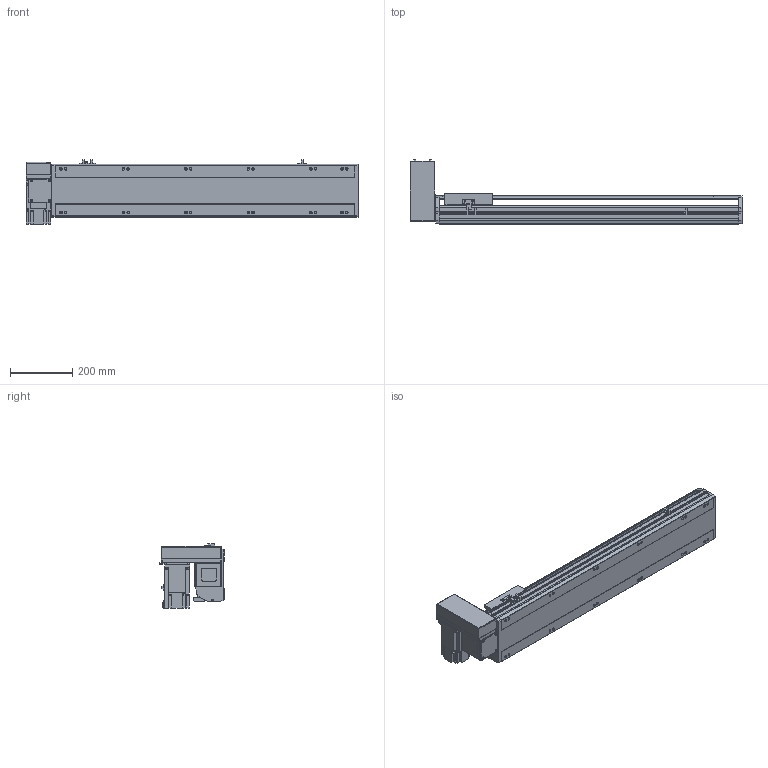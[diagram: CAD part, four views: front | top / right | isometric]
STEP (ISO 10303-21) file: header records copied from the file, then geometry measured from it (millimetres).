
FILE_DESCRIPTION( ( 'STEP AP214' ), '1' );
FILE_NAME( 'x:/temp/worker_5/temp/exporttempdir_3988_114_5fGjR/format_0/PBS170-P40-S700-RU-T75-C1-N(0).stp', '2022-06-08T05:56:24', ( 'License CC BY-ND 4.0' ), ( 'CADENAS' ), ' ', 'PARTsolutions', ' ' );
FILE_SCHEMA( ( 'AUTOMOTIVE_DESIGN { 1 0 10303 214 1 1 1 1 }' ) );
Length unit declared in the file: millimetre
Products named in the file (7): PBS170-P40-S700-RU-T75-C1-N(0); _PBS170-S700()_body; _PBS170T-RU_motors; _T75-p1; _PBS170_sliser; _PBS170_plant; _PBS170_sensor
Assembly tree (8 placements, depth 2):
  PBS170-P40-S700-RU-T75-C1-N(0)
    _PBS170-S700()_body
    _PBS170T-RU_motors
    _T75-p1
    _PBS170_sliser
    _PBS170_plant
    _PBS170_sensor  x3
Bounding box: 1063 x 206 x 205.3 mm (x, y, z)
Volume: 8851753.7 mm3; surface area: 1182694.4 mm2
Topology: 8 solids, 8 shells, 1050 faces, 2795 edges, 1822 vertices
Faces by surface type: plane 675, cylinder 323, cone 42, sphere 8, torus 2
Full cylindrical faces by diameter (mm): 3.242 x4, 4 x2, 4.4 x4, 4.5 x6, 4.917 x4, 6 x9, 6.647 x20, 7 x2, 7.5 x4, 8 x8, 8.5 x12, 10 x4, 10.5 x12, 11 x2, 30 x2, 40 x1, 70 x1
Entity records: 38456 total; most frequent: CARTESIAN_POINT 5885, DIRECTION 5160, ORIENTED_EDGE 4908, EDGE_CURVE 2454, AXIS2_PLACEMENT_3D 1777, VERTEX_POINT 1682, LINE 1606, VECTOR 1606
